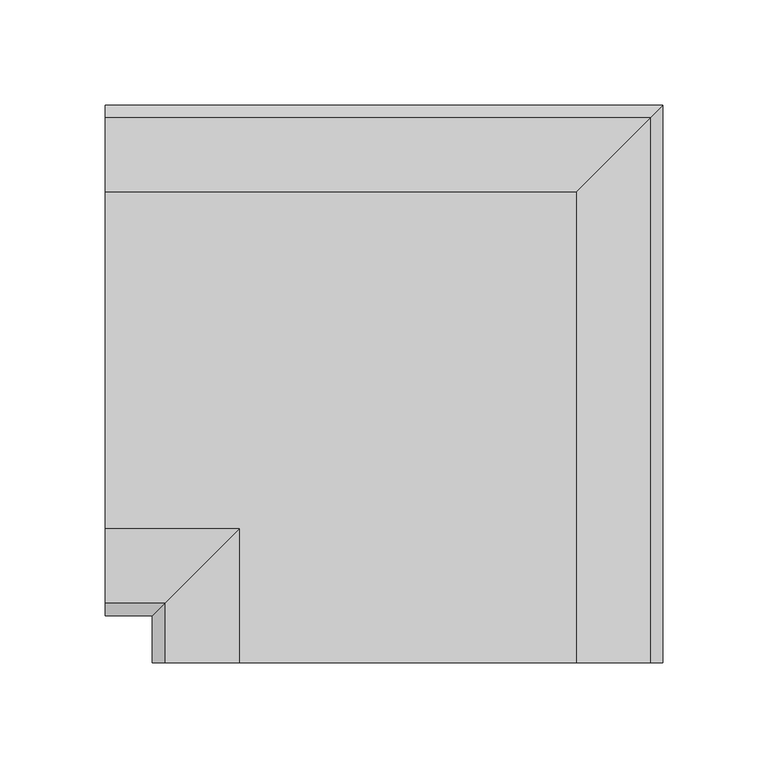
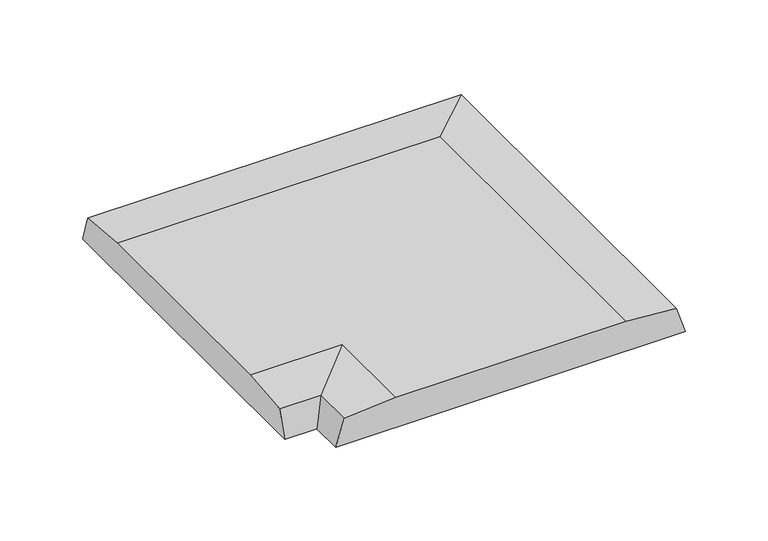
"""IFC4 building model written with IfcOpenShell, lengths in millimetres: proxy geometry, ROSA GRES_245 EF_Colocación en plano : Pieza 245 EF_Tresor_Java_Anti-Slip."""

from ifc_helpers import new_model, si_unit, frame, origin, place, context, project, spatial, circle_curve, ellipse_curve, source, transform, mapped, element, save
from ifc_brep_helpers import plane_surface, cylinder_surface, advanced_brep


def generic_models_6da5da0d(model_context):
    return source(origin(), model_context, "Body", "AdvancedBrep", [
        advanced_brep(
        [(-265.5203405, -41.366901, 0.0), (-265.5203405, -5.926953, -3.0209998), (-265.5203405, 0.0, -22.0), (-265.5203405, -243.1019432, -22.0), (-265.5203405, -237.1998275, -3.0704499), (-265.5203405, -201.3121437, 0.0), (-41.366901, -265.5203405, 0.0), (-201.3121437, -265.5203405, 0.0), (-237.1998275, -265.5203405, -3.0704499), (-243.1019432, -265.5203405, -22.0), (0.0, -265.5203405, -22.0), (-5.926953, -265.5203405, -3.0209998), (-41.366901, -41.366901, 0.0), (-5.926953, -5.926953, -3.0209998), (0.0, 0.0, -22.0), (-243.1019432, -243.1019432, -22.0), (-201.3121437, -201.3121437, 0.0), (-237.1998275, -237.1998275, -3.0704499)],
        [
            (0, 1, circle_curve(frame((-265.5203405, -84.9135355, -720.2412375), z_axis=(-1.0, 0.0, 0.0), x_axis=(0.0, 1.0, 0.0)), 721.556477)),
            (1, 2),
            (2, 3),
            (3, 4),
            (4, 5, circle_curve(frame((-265.5203405, -157.7655093, -720.2412375), z_axis=(-1.0, 0.0, 0.0), x_axis=(0.0, 1.0, 0.0)), 721.556477)),
            (5, 0),
            (6, 7),
            (7, 8, circle_curve(frame((-157.7655093, -265.5203405, -720.2412375), z_axis=(0.0, -1.0, 0.0), x_axis=(1.0, 0.0, 0.0)), 721.556477)),
            (8, 9),
            (9, 10),
            (10, 11),
            (11, 6, circle_curve(frame((-84.9135355, -265.5203405, -720.2412375), z_axis=(0.0, -1.0, 0.0), x_axis=(1.0, 0.0, 0.0)), 721.556477)),
            (0, 12),
            (12, 13, ellipse_curve(frame((-84.9135355, -84.9135355, -720.2412375), z_axis=(-0.7071067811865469, 0.7071067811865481, 0.0), x_axis=(-0.7071067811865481, -0.7071067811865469, 0.0)), 1020.4349559, 721.556477)),
            (13, 1),
            (13, 14),
            (14, 2),
            (14, 10),
            (9, 15),
            (15, 3),
            (5, 16),
            (16, 7),
            (6, 12),
            (11, 13),
            (15, 17),
            (17, 4),
            (17, 16, ellipse_curve(frame((-157.7655093, -157.7655093, -720.2412375), z_axis=(-0.7071067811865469, 0.7071067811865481, 0.0), x_axis=(-0.7071067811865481, -0.7071067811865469, 0.0)), 1020.4349559, 721.556477)),
            (8, 17),
        ],
        [
            plane_surface(frame((-265.5203405, 0.4796595, 0.0), z_axis=(-1.0, 0.0, 0.0), x_axis=(0.0, 0.0, 1.0))),
            plane_surface(frame((0.4796595, -265.5203405, 0.0), z_axis=(0.0, -1.0, 0.0), x_axis=(0.0, 0.0, 1.0))),
            cylinder_surface(frame((-265.5203405, -84.9135355, -720.2412375), z_axis=(-1.0, 0.0, 0.0), x_axis=(0.0, 1.0, 0.0)), 721.556477),
            plane_surface(frame((-265.5203405, -5.926953, -3.0209998), z_axis=(0.0, 0.9545370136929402, 0.29809241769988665), x_axis=(1.0, 0.0, 0.0))),
            plane_surface(frame((-265.5203405, 0.0, -22.0), z_axis=(0.0, 0.0, -1.0), x_axis=(1.0, 0.0, 0.0))),
            plane_surface(frame((-265.5203405, -201.3121437, 0.0), z_axis=(0.0, 0.0, 1.0), x_axis=(1.0, 0.0, 0.0))),
            cylinder_surface(frame((-84.9135355, 0.4796595, -720.2412375), z_axis=(0.0, 1.0, 0.0), x_axis=(1.0, 0.0, 0.0)), 721.556477),
            plane_surface(frame((-5.926953, -5.926953, -3.0209998), z_axis=(0.9545370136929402, 0.0, 0.2980924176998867), x_axis=(0.0, -1.0, 0.0))),
            plane_surface(frame((-265.5203405, -243.1019432, -22.0), z_axis=(0.0, -0.9546717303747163, 0.2976606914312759), x_axis=(1.0, 0.0, 0.0))),
            cylinder_surface(frame((-265.5203405, -157.7655093, -720.2412375), z_axis=(-1.0, 0.0, 0.0), x_axis=(0.0, 1.0, 0.0)), 721.556477),
            plane_surface(frame((-243.1019432, -243.1019432, -22.0), z_axis=(-0.9546717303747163, 0.0, 0.29766069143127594), x_axis=(0.0, -1.0, 0.0))),
            cylinder_surface(frame((-157.7655093, 0.4796595, -720.2412375), z_axis=(0.0, 1.0, 0.0), x_axis=(1.0, 0.0, 0.0)), 721.556477),
        ],
        [
            (0, [[1, 2, 3, 4, 5, 6]]),
            (1, [[7, 8, 9, 10, 11, 12]]),
            (2, [[-1, 13, 14, 15]]),
            (3, [[-2, -15, 16, 17]]),
            (4, [[-3, -17, 18, -10, 19, 20]]),
            (5, [[-6, 21, 22, -7, 23, -13]]),
            (6, [[-14, -23, -12, 24]]),
            (7, [[-16, -24, -11, -18]]),
            (8, [[-4, -20, 25, 26]]),
            (9, [[-5, -26, 27, -21]]),
            (10, [[-25, -19, -9, 28]]),
            (11, [[-27, -28, -8, -22]]),
        ],
    ),
    ])


if __name__ == "__main__":
    model = new_model("IFC4")
    model_context = context("Model", 3, world=origin())
    ifc_project = project(units=[si_unit("LENGTHUNIT", "METRE", prefix="MILLI")], contexts=[model_context])
    site = spatial("IfcSite", under=ifc_project)
    building = spatial("IfcBuilding", under=site)
    placement = place(None, origin())
    generic_models_shape = generic_models_6da5da0d(model_context)
    element("IfcBuildingElementProxy", 1, Name="ROSA GRES_245 EF_Colocación en plano : Pieza 245 EF_Tresor_Java_Anti-Slip", ObjectType="ROSA GRES_245 EF_Colocación en plano : Pieza 245 EF_Tresor_Java_Anti-Slip", at=placement, inside=building, context=model_context, shape_type="MappedRepresentation", body=[
        mapped(generic_models_shape, transform((0.0, 0.0, 0.0), x_axis=(1.0, 0.0, 0.0), y_axis=(0.0, 1.0, 0.0), z_axis=(0.0, 0.0, 1.0))),
    ])
    save(model, "model.ifc")
